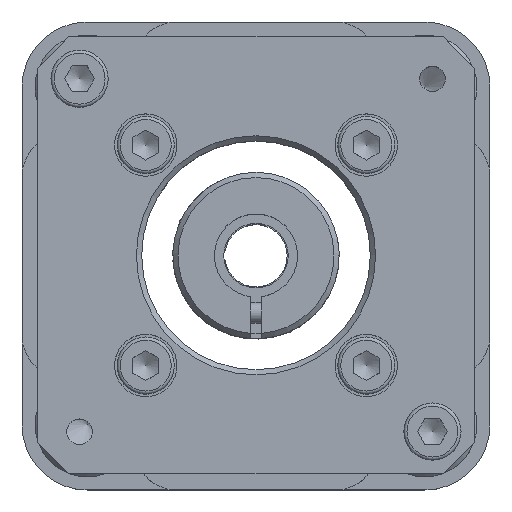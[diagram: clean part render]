
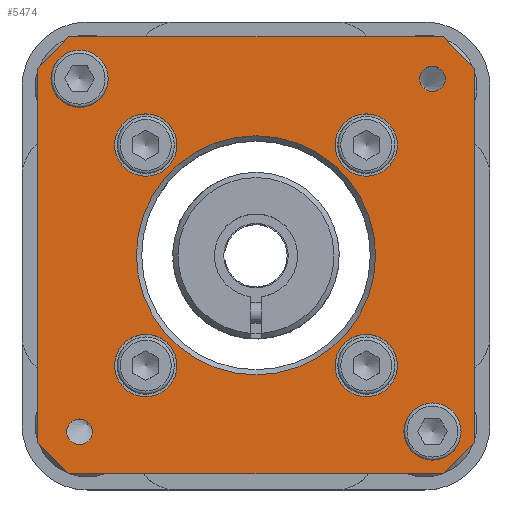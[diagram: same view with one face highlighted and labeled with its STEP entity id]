
A CAD part, top view. The second image highlights one B-rep face of the part: STEP entity #5474.
In plain terms, the highlighted planar face has unit normal (0, 0, 1) as drawn and (0, 1, 0) by its records, which use the part's own axes.
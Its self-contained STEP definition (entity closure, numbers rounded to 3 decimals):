
#273=PLANE('',#6134);
#597=LINE('',#9663,#929);
#598=LINE('',#9665,#930);
#599=LINE('',#9667,#931);
#600=LINE('',#9669,#932);
#601=LINE('',#9671,#933);
#602=LINE('',#9673,#934);
#603=LINE('',#9675,#935);
#604=LINE('',#9676,#936);
#929=VECTOR('',#7722,4.243);
#930=VECTOR('',#7723,36.);
#931=VECTOR('',#7724,4.243);
#932=VECTOR('',#7725,36.);
#933=VECTOR('',#7726,4.243);
#934=VECTOR('',#7727,36.);
#935=VECTOR('',#7728,4.243);
#936=VECTOR('',#7729,36.);
#1225=FACE_BOUND('',#2005,.T.);
#1226=FACE_BOUND('',#2006,.T.);
#1227=FACE_BOUND('',#2007,.T.);
#1228=FACE_BOUND('',#2008,.T.);
#1229=FACE_BOUND('',#2009,.T.);
#1230=FACE_BOUND('',#2010,.T.);
#1231=FACE_BOUND('',#2011,.T.);
#1232=FACE_BOUND('',#2012,.T.);
#1233=FACE_BOUND('',#2013,.T.);
#1542=FACE_OUTER_BOUND('',#2004,.T.);
#2004=EDGE_LOOP('',(#4943,#4944,#4945,#4946,#4947,#4948,#4949,#4950));
#2005=EDGE_LOOP('',(#4951));
#2006=EDGE_LOOP('',(#4952));
#2007=EDGE_LOOP('',(#4953));
#2008=EDGE_LOOP('',(#4954));
#2009=EDGE_LOOP('',(#4955));
#2010=EDGE_LOOP('',(#4956));
#2011=EDGE_LOOP('',(#4957));
#2012=EDGE_LOOP('',(#4958));
#2013=EDGE_LOOP('',(#4959));
#2371=CIRCLE('',#6094,1.23);
#2373=CIRCLE('',#6097,1.23);
#2375=CIRCLE('',#6100,1.23);
#2398=CIRCLE('',#6133,11.5);
#2399=CIRCLE('',#6135,1.23);
#2400=CIRCLE('',#6136,3.);
#2401=CIRCLE('',#6137,3.);
#2402=CIRCLE('',#6138,3.);
#2403=CIRCLE('',#6139,3.);
#2850=VERTEX_POINT('',#9512);
#2852=VERTEX_POINT('',#9517);
#2854=VERTEX_POINT('',#9522);
#2893=VERTEX_POINT('',#9658);
#2894=VERTEX_POINT('',#9661);
#2895=VERTEX_POINT('',#9662);
#2896=VERTEX_POINT('',#9664);
#2897=VERTEX_POINT('',#9666);
#2898=VERTEX_POINT('',#9668);
#2899=VERTEX_POINT('',#9670);
#2900=VERTEX_POINT('',#9672);
#2901=VERTEX_POINT('',#9674);
#2902=VERTEX_POINT('',#9677);
#2903=VERTEX_POINT('',#9679);
#2904=VERTEX_POINT('',#9681);
#2905=VERTEX_POINT('',#9683);
#2906=VERTEX_POINT('',#9685);
#3547=EDGE_CURVE('',#2850,#2850,#2371,.T.);
#3549=EDGE_CURVE('',#2852,#2852,#2373,.T.);
#3551=EDGE_CURVE('',#2854,#2854,#2375,.T.);
#3598=EDGE_CURVE('',#2893,#2893,#2398,.T.);
#3599=EDGE_CURVE('',#2894,#2895,#597,.T.);
#3600=EDGE_CURVE('',#2894,#2896,#598,.T.);
#3601=EDGE_CURVE('',#2897,#2896,#599,.T.);
#3602=EDGE_CURVE('',#2897,#2898,#600,.T.);
#3603=EDGE_CURVE('',#2899,#2898,#601,.T.);
#3604=EDGE_CURVE('',#2899,#2900,#602,.T.);
#3605=EDGE_CURVE('',#2901,#2900,#603,.T.);
#3606=EDGE_CURVE('',#2901,#2895,#604,.T.);
#3607=EDGE_CURVE('',#2902,#2902,#2399,.T.);
#3608=EDGE_CURVE('',#2903,#2903,#2400,.T.);
#3609=EDGE_CURVE('',#2904,#2904,#2401,.T.);
#3610=EDGE_CURVE('',#2905,#2905,#2402,.T.);
#3611=EDGE_CURVE('',#2906,#2906,#2403,.T.);
#4943=ORIENTED_EDGE('',*,*,#3599,.F.);
#4944=ORIENTED_EDGE('',*,*,#3600,.T.);
#4945=ORIENTED_EDGE('',*,*,#3601,.F.);
#4946=ORIENTED_EDGE('',*,*,#3602,.T.);
#4947=ORIENTED_EDGE('',*,*,#3603,.F.);
#4948=ORIENTED_EDGE('',*,*,#3604,.T.);
#4949=ORIENTED_EDGE('',*,*,#3605,.F.);
#4950=ORIENTED_EDGE('',*,*,#3606,.T.);
#4951=ORIENTED_EDGE('',*,*,#3547,.T.);
#4952=ORIENTED_EDGE('',*,*,#3549,.T.);
#4953=ORIENTED_EDGE('',*,*,#3551,.T.);
#4954=ORIENTED_EDGE('',*,*,#3607,.T.);
#4955=ORIENTED_EDGE('',*,*,#3608,.T.);
#4956=ORIENTED_EDGE('',*,*,#3609,.T.);
#4957=ORIENTED_EDGE('',*,*,#3610,.T.);
#4958=ORIENTED_EDGE('',*,*,#3611,.T.);
#4959=ORIENTED_EDGE('',*,*,#3598,.F.);
#5474=ADVANCED_FACE('',(#1542,#1225,#1226,#1227,#1228,#1229,#1230,#1231,
#1232,#1233),#273,.T.);
#6094=AXIS2_PLACEMENT_3D('',#9513,#7624,#7625);
#6097=AXIS2_PLACEMENT_3D('',#9518,#7630,#7631);
#6100=AXIS2_PLACEMENT_3D('',#9523,#7636,#7637);
#6133=AXIS2_PLACEMENT_3D('',#9659,#7718,#7719);
#6134=AXIS2_PLACEMENT_3D('',#9660,#7720,#7721);
#6135=AXIS2_PLACEMENT_3D('',#9678,#7730,#7731);
#6136=AXIS2_PLACEMENT_3D('',#9680,#7732,#7733);
#6137=AXIS2_PLACEMENT_3D('',#9682,#7734,#7735);
#6138=AXIS2_PLACEMENT_3D('',#9684,#7736,#7737);
#6139=AXIS2_PLACEMENT_3D('',#9686,#7738,#7739);
#7624=DIRECTION('center_axis',(0.,-1.,0.));
#7625=DIRECTION('ref_axis',(0.,0.,1.));
#7630=DIRECTION('center_axis',(0.,-1.,0.));
#7631=DIRECTION('ref_axis',(-1.,0.,0.));
#7636=DIRECTION('center_axis',(0.,-1.,0.));
#7637=DIRECTION('ref_axis',(0.,0.,-1.));
#7718=DIRECTION('center_axis',(0.,1.,0.));
#7719=DIRECTION('ref_axis',(-1.,0.,0.));
#7720=DIRECTION('center_axis',(0.,1.,0.));
#7721=DIRECTION('ref_axis',(0.,0.,1.));
#7722=DIRECTION('',(-0.707,0.,0.707));
#7723=DIRECTION('',(0.,0.,-1.));
#7724=DIRECTION('',(0.707,0.,0.707));
#7725=DIRECTION('',(-1.,0.,0.));
#7726=DIRECTION('',(0.707,0.,-0.707));
#7727=DIRECTION('',(0.,0.,1.));
#7728=DIRECTION('',(-0.707,0.,-0.707));
#7729=DIRECTION('',(1.,0.,0.));
#7730=DIRECTION('center_axis',(0.,-1.,0.));
#7731=DIRECTION('ref_axis',(1.,0.,0.));
#7732=DIRECTION('center_axis',(0.,-1.,0.));
#7733=DIRECTION('ref_axis',(1.,0.,0.));
#7734=DIRECTION('center_axis',(0.,-1.,0.));
#7735=DIRECTION('ref_axis',(0.,0.,-1.));
#7736=DIRECTION('center_axis',(0.,-1.,0.));
#7737=DIRECTION('ref_axis',(-1.,0.,0.));
#7738=DIRECTION('center_axis',(0.,-1.,0.));
#7739=DIRECTION('ref_axis',(0.,0.,1.));
#9512=CARTESIAN_POINT('',(16.971,12.5,18.2));
#9513=CARTESIAN_POINT('Origin',(16.971,12.5,16.971));
#9517=CARTESIAN_POINT('',(-18.2,12.5,16.971));
#9518=CARTESIAN_POINT('Origin',(-16.971,12.5,16.971));
#9522=CARTESIAN_POINT('',(-16.971,12.5,-18.2));
#9523=CARTESIAN_POINT('Origin',(-16.971,12.5,-16.971));
#9658=CARTESIAN_POINT('',(11.5,12.5,0.));
#9659=CARTESIAN_POINT('Origin',(0.,12.5,0.));
#9660=CARTESIAN_POINT('Origin',(0.,12.5,0.));
#9661=CARTESIAN_POINT('',(21.,12.5,18.));
#9662=CARTESIAN_POINT('',(18.,12.5,21.));
#9663=CARTESIAN_POINT('',(19.5,12.5,19.5));
#9664=CARTESIAN_POINT('',(21.,12.5,-18.));
#9665=CARTESIAN_POINT('',(21.,12.5,-21.));
#9666=CARTESIAN_POINT('',(18.,12.5,-21.));
#9667=CARTESIAN_POINT('',(19.5,12.5,-19.5));
#9668=CARTESIAN_POINT('',(-18.,12.5,-21.));
#9669=CARTESIAN_POINT('',(-21.,12.5,-21.));
#9670=CARTESIAN_POINT('',(-21.,12.5,-18.));
#9671=CARTESIAN_POINT('',(-19.5,12.5,-19.5));
#9672=CARTESIAN_POINT('',(-21.,12.5,18.));
#9673=CARTESIAN_POINT('',(-21.,12.5,21.));
#9674=CARTESIAN_POINT('',(-18.,12.5,21.));
#9675=CARTESIAN_POINT('',(-19.5,12.5,19.5));
#9676=CARTESIAN_POINT('',(21.,12.5,21.));
#9677=CARTESIAN_POINT('',(18.2,12.5,-16.971));
#9678=CARTESIAN_POINT('Origin',(16.971,12.5,-16.971));
#9679=CARTESIAN_POINT('',(13.607,12.5,-10.607));
#9680=CARTESIAN_POINT('Origin',(10.607,12.5,-10.607));
#9681=CARTESIAN_POINT('',(-10.607,12.5,-13.607));
#9682=CARTESIAN_POINT('Origin',(-10.607,12.5,-10.607));
#9683=CARTESIAN_POINT('',(-13.607,12.5,10.607));
#9684=CARTESIAN_POINT('Origin',(-10.607,12.5,10.607));
#9685=CARTESIAN_POINT('',(10.607,12.5,13.607));
#9686=CARTESIAN_POINT('Origin',(10.607,12.5,10.607));
